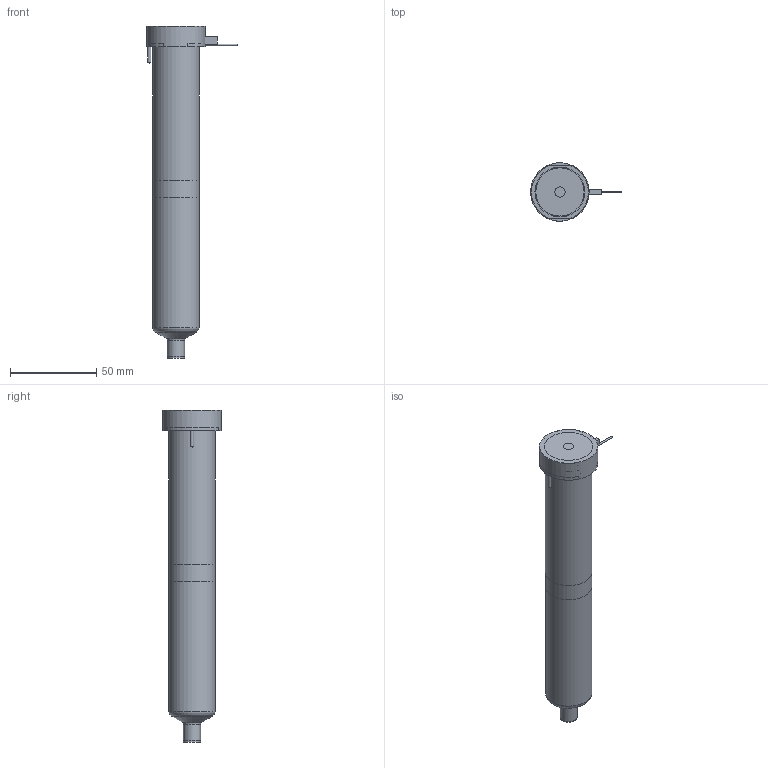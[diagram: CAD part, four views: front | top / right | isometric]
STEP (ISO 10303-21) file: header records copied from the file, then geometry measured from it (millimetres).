
FILE_DESCRIPTION(/* description */ (''),/* implementation_level */ '2;1');
FILE_NAME(/* name */ 'BXTSN-BXISN-BXOSN13175_250C_b',/* time_stamp */ '2007-01-18T09:58:33+13:00',/* author */ (''),/* organization */ (''),/* preprocessor_version */ 'ST-DEVELOPER v9',/* originating_system */ 'UGS - NX 4.0',/* authorisation */ '');
FILE_SCHEMA (('CONFIG_CONTROL_DESIGN'));
Length unit declared in the file: millimetre
Products named in the file (1): BXTSN-BXISN-BXOSN13175_250C_b
Bounding box: 52.65 x 34 x 192.79 mm (x, y, z)
Volume: 188458.8 mm3; surface area: 35781.3 mm2
Topology: 6 solids, 6 shells, 73 faces, 141 edges, 91 vertices
Faces by surface type: plane 34, cylinder 23, cone 8, torus 7, bspline 1
Full cylindrical faces by diameter (mm): 0.9 x1, 1 x3, 2 x2, 6 x1, 9.61 x1, 10.01 x2, 12.6 x1, 22.2 x1, 27 x2, 34 x1
Entity records: 1806 total; most frequent: CARTESIAN_POINT 357, DIRECTION 304, ORIENTED_EDGE 210, AXIS2_PLACEMENT_3D 134, EDGE_LOOP 112, EDGE_CURVE 105, VERTEX_POINT 84, ADVANCED_FACE 73
